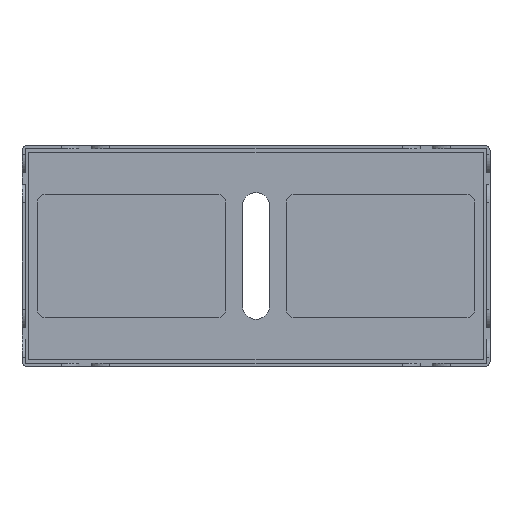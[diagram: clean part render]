
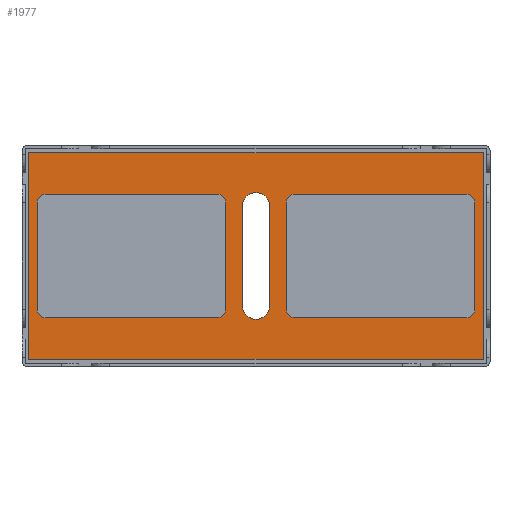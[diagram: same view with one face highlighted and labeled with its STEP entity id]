
A CAD part, top view. The second image highlights one B-rep face of the part: STEP entity #1977.
In plain terms, the highlighted planar face has unit normal (0, 0, 1).
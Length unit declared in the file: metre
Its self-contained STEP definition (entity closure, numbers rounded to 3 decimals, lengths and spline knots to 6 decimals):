
#72=CIRCLE('',#2117,0.00635);
#73=CIRCLE('',#2118,0.00635);
#74=CIRCLE('',#2119,0.0038);
#75=CIRCLE('',#2120,0.0038);
#76=CIRCLE('',#2121,0.0038);
#77=CIRCLE('',#2122,0.0038);
#78=CIRCLE('',#2123,0.0038);
#79=CIRCLE('',#2124,0.0038);
#80=CIRCLE('',#2125,0.0038);
#81=CIRCLE('',#2126,0.0038);
#192=ORIENTED_EDGE('',*,*,#766,.T.);
#193=ORIENTED_EDGE('',*,*,#767,.T.);
#194=ORIENTED_EDGE('',*,*,#768,.T.);
#195=ORIENTED_EDGE('',*,*,#769,.F.);
#196=ORIENTED_EDGE('',*,*,#770,.F.);
#197=ORIENTED_EDGE('',*,*,#771,.T.);
#198=ORIENTED_EDGE('',*,*,#772,.T.);
#199=ORIENTED_EDGE('',*,*,#773,.T.);
#200=ORIENTED_EDGE('',*,*,#774,.T.);
#201=ORIENTED_EDGE('',*,*,#775,.T.);
#202=ORIENTED_EDGE('',*,*,#776,.F.);
#203=ORIENTED_EDGE('',*,*,#777,.T.);
#204=ORIENTED_EDGE('',*,*,#778,.T.);
#205=ORIENTED_EDGE('',*,*,#779,.T.);
#206=ORIENTED_EDGE('',*,*,#780,.F.);
#207=ORIENTED_EDGE('',*,*,#781,.F.);
#208=ORIENTED_EDGE('',*,*,#782,.F.);
#209=ORIENTED_EDGE('',*,*,#783,.T.);
#210=ORIENTED_EDGE('',*,*,#784,.T.);
#211=ORIENTED_EDGE('',*,*,#785,.T.);
#212=ORIENTED_EDGE('',*,*,#786,.T.);
#213=ORIENTED_EDGE('',*,*,#787,.T.);
#214=ORIENTED_EDGE('',*,*,#788,.F.);
#215=ORIENTED_EDGE('',*,*,#789,.T.);
#766=EDGE_CURVE('',#1052,#1053,#72,.T.);
#767=EDGE_CURVE('',#1053,#1054,#1238,.T.);
#768=EDGE_CURVE('',#1054,#1055,#73,.T.);
#769=EDGE_CURVE('',#1052,#1055,#1239,.T.);
#770=EDGE_CURVE('',#1056,#1057,#1240,.T.);
#771=EDGE_CURVE('',#1056,#1058,#74,.F.);
#772=EDGE_CURVE('',#1058,#1059,#1241,.T.);
#773=EDGE_CURVE('',#1059,#1060,#75,.F.);
#774=EDGE_CURVE('',#1060,#1061,#1242,.T.);
#775=EDGE_CURVE('',#1061,#1062,#76,.F.);
#776=EDGE_CURVE('',#1063,#1062,#1243,.T.);
#777=EDGE_CURVE('',#1063,#1057,#77,.F.);
#778=EDGE_CURVE('',#1064,#1065,#1244,.T.);
#779=EDGE_CURVE('',#1065,#1066,#1245,.T.);
#780=EDGE_CURVE('',#1067,#1066,#1246,.T.);
#781=EDGE_CURVE('',#1064,#1067,#1247,.T.);
#782=EDGE_CURVE('',#1068,#1069,#1248,.T.);
#783=EDGE_CURVE('',#1068,#1070,#78,.F.);
#784=EDGE_CURVE('',#1070,#1071,#1249,.T.);
#785=EDGE_CURVE('',#1071,#1072,#79,.F.);
#786=EDGE_CURVE('',#1072,#1073,#1250,.T.);
#787=EDGE_CURVE('',#1073,#1074,#80,.F.);
#788=EDGE_CURVE('',#1075,#1074,#1251,.T.);
#789=EDGE_CURVE('',#1075,#1069,#81,.F.);
#1052=VERTEX_POINT('',#2989);
#1053=VERTEX_POINT('',#2990);
#1054=VERTEX_POINT('',#2992);
#1055=VERTEX_POINT('',#2994);
#1056=VERTEX_POINT('',#2997);
#1057=VERTEX_POINT('',#2998);
#1058=VERTEX_POINT('',#3000);
#1059=VERTEX_POINT('',#3002);
#1060=VERTEX_POINT('',#3004);
#1061=VERTEX_POINT('',#3006);
#1062=VERTEX_POINT('',#3008);
#1063=VERTEX_POINT('',#3010);
#1064=VERTEX_POINT('',#3013);
#1065=VERTEX_POINT('',#3014);
#1066=VERTEX_POINT('',#3016);
#1067=VERTEX_POINT('',#3018);
#1068=VERTEX_POINT('',#3021);
#1069=VERTEX_POINT('',#3022);
#1070=VERTEX_POINT('',#3024);
#1071=VERTEX_POINT('',#3026);
#1072=VERTEX_POINT('',#3028);
#1073=VERTEX_POINT('',#3030);
#1074=VERTEX_POINT('',#3032);
#1075=VERTEX_POINT('',#3034);
#1238=LINE('',#2991,#1438);
#1239=LINE('',#2995,#1439);
#1240=LINE('',#2996,#1440);
#1241=LINE('',#3001,#1441);
#1242=LINE('',#3005,#1442);
#1243=LINE('',#3009,#1443);
#1244=LINE('',#3012,#1444);
#1245=LINE('',#3015,#1445);
#1246=LINE('',#3017,#1446);
#1247=LINE('',#3019,#1447);
#1248=LINE('',#3020,#1448);
#1249=LINE('',#3025,#1449);
#1250=LINE('',#3029,#1450);
#1251=LINE('',#3033,#1451);
#1438=VECTOR('',#2369,1.);
#1439=VECTOR('',#2372,1.);
#1440=VECTOR('',#2373,1.);
#1441=VECTOR('',#2376,1.);
#1442=VECTOR('',#2379,1.);
#1443=VECTOR('',#2382,1.);
#1444=VECTOR('',#2385,1.);
#1445=VECTOR('',#2386,1.);
#1446=VECTOR('',#2387,1.);
#1447=VECTOR('',#2388,1.);
#1448=VECTOR('',#2389,1.);
#1449=VECTOR('',#2392,1.);
#1450=VECTOR('',#2395,1.);
#1451=VECTOR('',#2398,1.);
#1616=EDGE_LOOP('',(#192,#193,#194,#195));
#1617=EDGE_LOOP('',(#196,#197,#198,#199,#200,#201,#202,#203));
#1618=EDGE_LOOP('',(#204,#205,#206,#207));
#1619=EDGE_LOOP('',(#208,#209,#210,#211,#212,#213,#214,#215));
#1766=FACE_BOUND('',#1616,.T.);
#1767=FACE_BOUND('',#1617,.T.);
#1768=FACE_BOUND('',#1618,.T.);
#1769=FACE_BOUND('',#1619,.T.);
#1911=PLANE('',#2116);
#1977=ADVANCED_FACE('',(#1766,#1767,#1768,#1769),#1911,.T.);
#2116=AXIS2_PLACEMENT_3D('',#2987,#2365,#2366);
#2117=AXIS2_PLACEMENT_3D('',#2988,#2367,#2368);
#2118=AXIS2_PLACEMENT_3D('',#2993,#2370,#2371);
#2119=AXIS2_PLACEMENT_3D('',#2999,#2374,#2375);
#2120=AXIS2_PLACEMENT_3D('',#3003,#2377,#2378);
#2121=AXIS2_PLACEMENT_3D('',#3007,#2380,#2381);
#2122=AXIS2_PLACEMENT_3D('',#3011,#2383,#2384);
#2123=AXIS2_PLACEMENT_3D('',#3023,#2390,#2391);
#2124=AXIS2_PLACEMENT_3D('',#3027,#2393,#2394);
#2125=AXIS2_PLACEMENT_3D('',#3031,#2396,#2397);
#2126=AXIS2_PLACEMENT_3D('',#3035,#2399,#2400);
#2365=DIRECTION('',(0.,0.,1.));
#2366=DIRECTION('',(1.,0.,0.));
#2367=DIRECTION('',(0.,0.,-1.));
#2368=DIRECTION('',(1.,0.,0.));
#2369=DIRECTION('',(0.,-1.,0.));
#2370=DIRECTION('',(0.,0.,-1.));
#2371=DIRECTION('',(1.,0.,0.));
#2372=DIRECTION('',(0.,-1.,0.));
#2373=DIRECTION('',(0.,-1.,0.));
#2374=DIRECTION('',(0.,0.,1.));
#2375=DIRECTION('',(1.,0.,0.));
#2376=DIRECTION('',(1.,0.,0.));
#2377=DIRECTION('',(0.,0.,1.));
#2378=DIRECTION('',(1.,0.,0.));
#2379=DIRECTION('',(0.,-1.,0.));
#2380=DIRECTION('',(0.,0.,1.));
#2381=DIRECTION('',(1.,0.,0.));
#2382=DIRECTION('',(1.,0.,0.));
#2383=DIRECTION('',(0.,0.,1.));
#2384=DIRECTION('',(1.,0.,0.));
#2385=DIRECTION('',(0.,1.,0.));
#2386=DIRECTION('',(-1.,0.,0.));
#2387=DIRECTION('',(0.,1.,0.));
#2388=DIRECTION('',(-1.,0.,0.));
#2389=DIRECTION('',(-1.,0.,0.));
#2390=DIRECTION('',(0.,0.,1.));
#2391=DIRECTION('',(1.,0.,0.));
#2392=DIRECTION('',(0.,-1.,0.));
#2393=DIRECTION('',(0.,0.,1.));
#2394=DIRECTION('',(1.,0.,0.));
#2395=DIRECTION('',(-1.,0.,0.));
#2396=DIRECTION('',(0.,0.,1.));
#2397=DIRECTION('',(1.,0.,0.));
#2398=DIRECTION('',(0.,-1.,0.));
#2399=DIRECTION('',(0.,0.,1.));
#2400=DIRECTION('',(1.,0.,0.));
#2987=CARTESIAN_POINT('',(-0.10795,0.0508,0.028448));
#2988=CARTESIAN_POINT('',(-0.10795,0.07366,0.028448));
#2989=CARTESIAN_POINT('',(-0.1143,0.07366,0.028448));
#2990=CARTESIAN_POINT('',(-0.1016,0.07366,0.028448));
#2991=CARTESIAN_POINT('',(-0.1016,0.0508,0.028448));
#2992=CARTESIAN_POINT('',(-0.1016,0.02794,0.028448));
#2993=CARTESIAN_POINT('',(-0.10795,0.02794,0.028448));
#2994=CARTESIAN_POINT('',(-0.1143,0.02794,0.028448));
#2995=CARTESIAN_POINT('',(-0.1143,0.0508,0.028448));
#2996=CARTESIAN_POINT('',(-0.093985,0.0508,0.028448));
#2997=CARTESIAN_POINT('',(-0.093985,0.0755,0.028448));
#2998=CARTESIAN_POINT('',(-0.093985,0.0261,0.028448));
#2999=CARTESIAN_POINT('',(-0.090185,0.0755,0.028448));
#3000=CARTESIAN_POINT('',(-0.090185,0.0793,0.028448));
#3001=CARTESIAN_POINT('',(-0.050485,0.0793,0.028448));
#3002=CARTESIAN_POINT('',(-0.010785,0.0793,0.028448));
#3003=CARTESIAN_POINT('',(-0.010785,0.0755,0.028448));
#3004=CARTESIAN_POINT('',(-0.006985,0.0755,0.028448));
#3005=CARTESIAN_POINT('',(-0.006985,0.0508,0.028448));
#3006=CARTESIAN_POINT('',(-0.006985,0.0261,0.028448));
#3007=CARTESIAN_POINT('',(-0.010785,0.0261,0.028448));
#3008=CARTESIAN_POINT('',(-0.010785,0.0223,0.028448));
#3009=CARTESIAN_POINT('',(-0.050485,0.0223,0.028448));
#3010=CARTESIAN_POINT('',(-0.090185,0.0223,0.028448));
#3011=CARTESIAN_POINT('',(-0.090185,0.0261,0.028448));
#3012=CARTESIAN_POINT('',(-0.003175,0.0508,0.028448));
#3013=CARTESIAN_POINT('',(-0.003175,0.003175,0.028448));
#3014=CARTESIAN_POINT('',(-0.003175,0.098425,0.028448));
#3015=CARTESIAN_POINT('',(-0.10795,0.098425,0.028448));
#3016=CARTESIAN_POINT('',(-0.212725,0.098425,0.028448));
#3017=CARTESIAN_POINT('',(-0.212725,0.0508,0.028448));
#3018=CARTESIAN_POINT('',(-0.212725,0.003175,0.028448));
#3019=CARTESIAN_POINT('',(-0.10795,0.003175,0.028448));
#3020=CARTESIAN_POINT('',(-0.165415,0.0793,0.028448));
#3021=CARTESIAN_POINT('',(-0.125715,0.0793,0.028448));
#3022=CARTESIAN_POINT('',(-0.205115,0.0793,0.028448));
#3023=CARTESIAN_POINT('',(-0.125715,0.0755,0.028448));
#3024=CARTESIAN_POINT('',(-0.121915,0.0755,0.028448));
#3025=CARTESIAN_POINT('',(-0.121915,0.0508,0.028448));
#3026=CARTESIAN_POINT('',(-0.121915,0.0261,0.028448));
#3027=CARTESIAN_POINT('',(-0.125715,0.0261,0.028448));
#3028=CARTESIAN_POINT('',(-0.125715,0.0223,0.028448));
#3029=CARTESIAN_POINT('',(-0.165415,0.0223,0.028448));
#3030=CARTESIAN_POINT('',(-0.205115,0.0223,0.028448));
#3031=CARTESIAN_POINT('',(-0.205115,0.0261,0.028448));
#3032=CARTESIAN_POINT('',(-0.208915,0.0261,0.028448));
#3033=CARTESIAN_POINT('',(-0.208915,0.0508,0.028448));
#3034=CARTESIAN_POINT('',(-0.208915,0.0755,0.028448));
#3035=CARTESIAN_POINT('',(-0.205115,0.0755,0.028448));
